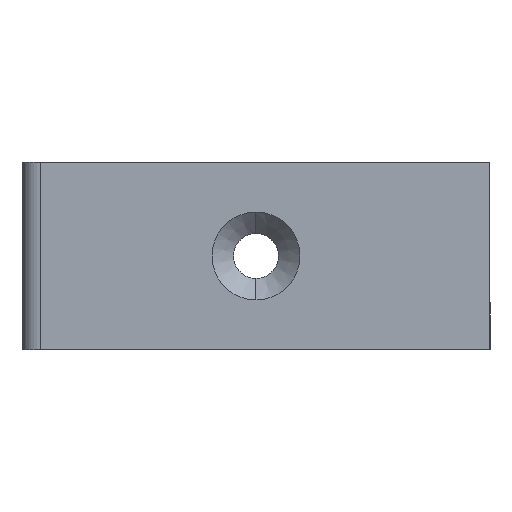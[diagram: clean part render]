
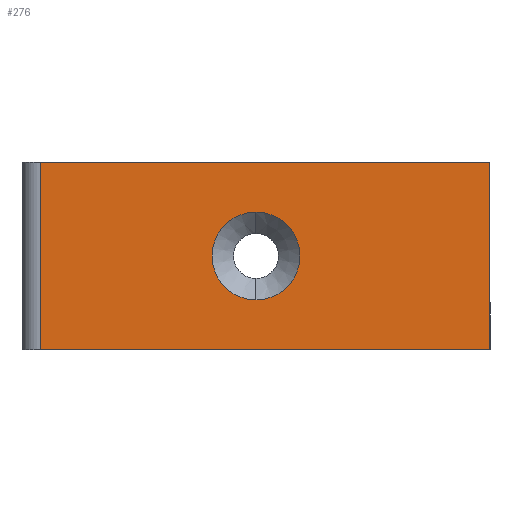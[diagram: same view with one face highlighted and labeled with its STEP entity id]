
A CAD part, left-side view. The second image highlights one B-rep face of the part: STEP entity #276.
In plain terms, the highlighted planar face has unit normal (-1, 0, 0).
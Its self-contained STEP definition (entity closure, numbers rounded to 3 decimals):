
#4 = LINE ( 'NONE', #231, #461 ) ;
#7 = CARTESIAN_POINT ( 'NONE',  ( -82.05, 23.753, 0. ) ) ;
#18 = EDGE_CURVE ( 'NONE', #20, #70, #315, .T. ) ;
#19 = VECTOR ( 'NONE', #270, 1000. ) ;
#20 = VERTEX_POINT ( 'NONE', #603 ) ;
#28 = ORIENTED_EDGE ( 'NONE', *, *, #18, .F. ) ;
#30 = AXIS2_PLACEMENT_3D ( 'NONE', #292, #58, #655 ) ;
#44 = FACE_BOUND ( 'NONE', #740, .T. ) ;
#58 = DIRECTION ( 'NONE',  ( -1., 0., 0. ) ) ;
#70 = VERTEX_POINT ( 'NONE', #297 ) ;
#113 = AXIS2_PLACEMENT_3D ( 'NONE', #506, #641, #210 ) ;
#124 = EDGE_CURVE ( 'NONE', #759, #404, #4, .T. ) ;
#137 = CARTESIAN_POINT ( 'NONE',  ( -82.05, 23.753, 20. ) ) ;
#151 = EDGE_CURVE ( 'NONE', #731, #404, #482, .T. ) ;
#159 = CARTESIAN_POINT ( 'NONE',  ( -82.05, -24.247, 5. ) ) ;
#163 = PLANE ( 'NONE',  #452 ) ;
#164 = EDGE_CURVE ( 'NONE', #557, #731, #682, .T. ) ;
#182 = ORIENTED_EDGE ( 'NONE', *, *, #151, .F. ) ;
#210 = DIRECTION ( 'NONE',  ( 0., 0., 1. ) ) ;
#231 = CARTESIAN_POINT ( 'NONE',  ( -82.05, -24.247, 0. ) ) ;
#259 = EDGE_CURVE ( 'NONE', #70, #20, #305, .T. ) ;
#267 = LINE ( 'NONE', #499, #19 ) ;
#270 = DIRECTION ( 'NONE',  ( 0., 0., -1. ) ) ;
#276 = ADVANCED_FACE ( 'NONE', ( #44, #378 ), #163, .F. ) ;
#278 = DIRECTION ( 'NONE',  ( 0., 0., -1. ) ) ;
#292 = CARTESIAN_POINT ( 'NONE',  ( -82.05, 0.753, 10. ) ) ;
#297 = CARTESIAN_POINT ( 'NONE',  ( -82.05, 0.753, 5.3 ) ) ;
#305 = CIRCLE ( 'NONE', #113, 4.7 ) ;
#315 = CIRCLE ( 'NONE', #30, 4.7 ) ;
#325 = VECTOR ( 'NONE', #613, 1000. ) ;
#349 = EDGE_CURVE ( 'NONE', #557, #759, #267, .T. ) ;
#374 = CARTESIAN_POINT ( 'NONE',  ( -82.05, -24.247, 20. ) ) ;
#378 = FACE_OUTER_BOUND ( 'NONE', #433, .T. ) ;
#403 = CARTESIAN_POINT ( 'NONE',  ( -82.05, -24.247, 0. ) ) ;
#404 = VERTEX_POINT ( 'NONE', #403 ) ;
#426 = VECTOR ( 'NONE', #685, 1000. ) ;
#433 = EDGE_LOOP ( 'NONE', ( #617, #182, #582, #754 ) ) ;
#452 = AXIS2_PLACEMENT_3D ( 'NONE', #159, #569, #278 ) ;
#461 = VECTOR ( 'NONE', #468, 1000. ) ;
#468 = DIRECTION ( 'NONE',  ( 0., -1., 0. ) ) ;
#482 = LINE ( 'NONE', #607, #325 ) ;
#499 = CARTESIAN_POINT ( 'NONE',  ( -82.05, 23.753, 5. ) ) ;
#506 = CARTESIAN_POINT ( 'NONE',  ( -82.05, 0.753, 10. ) ) ;
#557 = VERTEX_POINT ( 'NONE', #675 ) ;
#569 = DIRECTION ( 'NONE',  ( 1., 0., 0. ) ) ;
#582 = ORIENTED_EDGE ( 'NONE', *, *, #164, .F. ) ;
#603 = CARTESIAN_POINT ( 'NONE',  ( -82.05, 0.753, 14.7 ) ) ;
#607 = CARTESIAN_POINT ( 'NONE',  ( -82.05, -24.247, 5. ) ) ;
#613 = DIRECTION ( 'NONE',  ( 0., 0., -1. ) ) ;
#617 = ORIENTED_EDGE ( 'NONE', *, *, #124, .T. ) ;
#641 = DIRECTION ( 'NONE',  ( -1., 0., 0. ) ) ;
#655 = DIRECTION ( 'NONE',  ( 0., 0., 1. ) ) ;
#675 = CARTESIAN_POINT ( 'NONE',  ( -82.05, 23.753, 20. ) ) ;
#679 = ORIENTED_EDGE ( 'NONE', *, *, #259, .F. ) ;
#682 = LINE ( 'NONE', #137, #426 ) ;
#685 = DIRECTION ( 'NONE',  ( 0., -1., 0. ) ) ;
#731 = VERTEX_POINT ( 'NONE', #374 ) ;
#740 = EDGE_LOOP ( 'NONE', ( #28, #679 ) ) ;
#754 = ORIENTED_EDGE ( 'NONE', *, *, #349, .T. ) ;
#759 = VERTEX_POINT ( 'NONE', #7 ) ;
